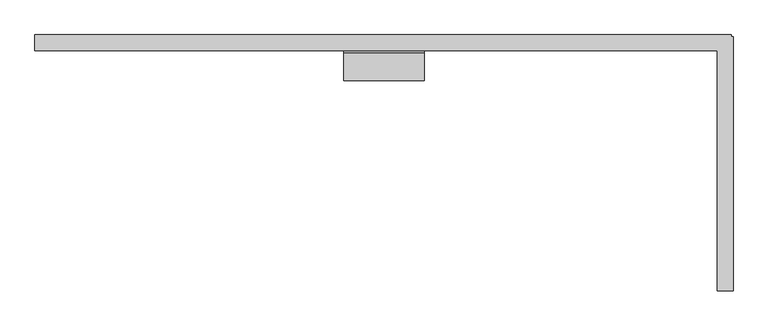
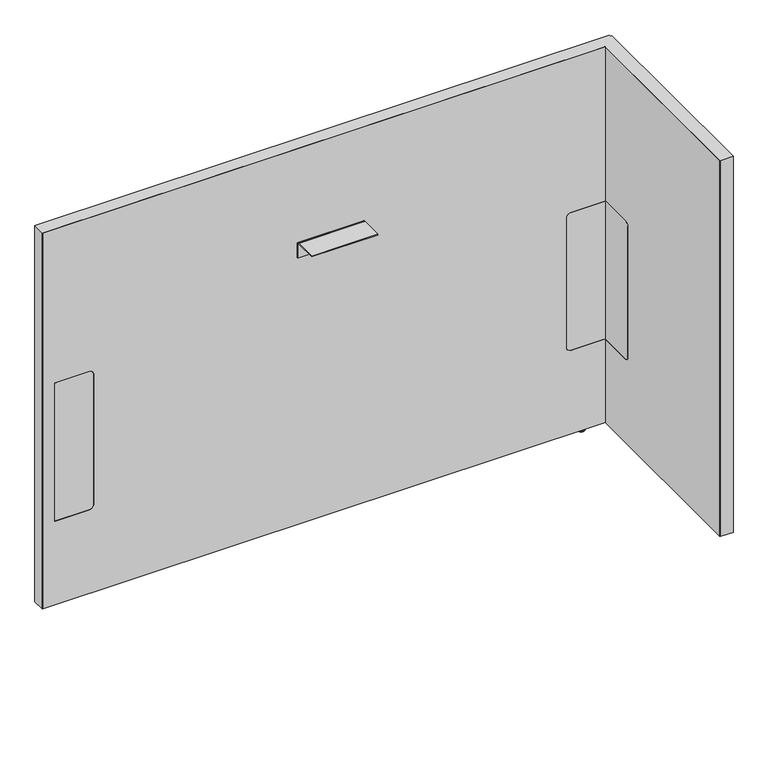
"""IFC4 building model written with IfcOpenShell, lengths in millimetres: furniture geometry, Steelcase - Answer Solution - Boundary Screen - L Return - Single Sided : 36H x 51W."""

from ifc_helpers import new_model, si_unit, point, frame, frame_2d, origin, place, context, project, spatial, polyline, circle_curve, ellipse_curve, trimmed, segment, composite_curve, outline, extrude, faceted_brep, source, transform, mapped, element, save
from ifc_brep_helpers import plane_surface, cylinder_surface, revolved_surface, advanced_brep


def furniture_ebb056c9(model_context):
    return source(origin(), model_context, "Body", "SolidModel", [
        extrude(outline(composite_curve([segment(polyline([(-109.3501471, 549.6162029), (-29.0550397, 549.6162029), (-29.0550397, 213.7762137), (-109.3501471, 213.7762137)]), True, "CONTINUOUS"), segment(trimmed(circle_curve(frame_2d((-109.3501471, 223.9362137)), 10.16), [point((-109.3501471, 213.7762137))], [point((-119.5101471, 223.9362137))], False, "CARTESIAN"), True, "CONTINUOUS"), segment(polyline([(-119.5101471, 223.9362137), (-119.5101471, 539.4562029)]), True, "CONTINUOUS"), segment(trimmed(circle_curve(frame_2d((-109.3501471, 539.4562029)), 10.16), [point((-119.5101471, 539.4562029))], [point((-109.3501471, 549.6162029))], False, "CARTESIAN"), True, "CONTINUOUS")], self_intersect=False)), frame((1525.2191891, 0.0, 0.0), z_axis=(1.0, 0.0, 0.0), x_axis=(0.0, 1.0, 0.0)), (0.0, 0.0, 1.0), 0.6401544),
        advanced_brep(
        [(1540.0672074, -448.0136072, 0.0), (1547.0216144, -448.0136072, 0.0), (1533.1128003, -448.0136072, 0.0), (1548.4762685, -448.0136072, 1.2700001), (1531.6581463, -448.0136072, 1.2700001), (1548.4762685, -448.0136072, 2.9673238), (1531.6581463, -448.0136072, 2.9673238), (1549.4427877, -448.0136072, 2.9673238), (1530.691627, -448.0136072, 2.9673238), (1549.4427877, -448.0136072, 9.9059849), (1530.691627, -448.0136072, 9.9059849), (1540.0672074, -448.0136072, 9.9059849)],
        [
            (0, 1),
            (1, 2, circle_curve(frame((1540.0672074, -448.0136072, 0.0), z_axis=(0.0, 0.0, -1.0), x_axis=(1.0, 0.0, 0.0)), 6.9544071)),
            (2, 0),
            (2, 1, circle_curve(frame((1540.0672074, -448.0136072, 0.0), z_axis=(0.0, 0.0, -1.0), x_axis=(1.0, 0.0, 0.0)), 6.9544071)),
            (1, 3, circle_curve(frame((1547.1945484, -448.0136072, 1.2700001), z_axis=(0.0, -1.0, 0.0), x_axis=(0.0, 0.0, 1.0)), 1.2817201)),
            (3, 4, circle_curve(frame((1540.0672074, -448.0136072, 1.2700001), z_axis=(0.0, 0.0, -1.0), x_axis=(1.0, 0.0, 0.0)), 8.4090611)),
            (4, 2, circle_curve(frame((1532.9398663, -448.0136072, 1.2700001), z_axis=(0.0, -1.0, 0.0), x_axis=(0.0, 0.0, 1.0)), 1.2817201)),
            (4, 3, circle_curve(frame((1540.0672074, -448.0136072, 1.2700001), z_axis=(0.0, 0.0, -1.0), x_axis=(1.0, 0.0, 0.0)), 8.4090611)),
            (3, 5),
            (5, 6, circle_curve(frame((1540.0672074, -448.0136072, 2.9673238), z_axis=(0.0, 0.0, -1.0), x_axis=(1.0, 0.0, 0.0)), 8.4090611)),
            (6, 4),
            (6, 5, circle_curve(frame((1540.0672074, -448.0136072, 2.9673238), z_axis=(0.0, 0.0, -1.0), x_axis=(1.0, 0.0, 0.0)), 8.4090611)),
            (5, 7),
            (7, 8, circle_curve(frame((1540.0672074, -448.0136072, 2.9673238), z_axis=(0.0, 0.0, -1.0), x_axis=(1.0, 0.0, 0.0)), 9.3755804)),
            (8, 6),
            (8, 7, circle_curve(frame((1540.0672074, -448.0136072, 2.9673238), z_axis=(0.0, 0.0, -1.0), x_axis=(1.0, 0.0, 0.0)), 9.3755804)),
            (7, 9),
            (9, 10, circle_curve(frame((1540.0672074, -448.0136072, 9.9059849), z_axis=(0.0, 0.0, -1.0), x_axis=(1.0, 0.0, 0.0)), 9.3755804)),
            (10, 8),
            (10, 9, circle_curve(frame((1540.0672074, -448.0136072, 9.9059849), z_axis=(0.0, 0.0, -1.0), x_axis=(1.0, 0.0, 0.0)), 9.3755804)),
            (9, 11),
            (11, 10),
        ],
        [
            plane_surface(frame((1540.0672074, -448.0136072, 0.0), z_axis=(0.0, 0.0, -1.0), x_axis=(1.0, 0.0, 0.0))),
            revolved_surface(trimmed(ellipse_curve(frame((1547.1945484, -448.0136072, 1.2700001), z_axis=(0.0, 1.0, 0.0), x_axis=(0.0, 0.0, 1.0)), 1.2817201, 1.2817201), [point((1548.4762685, -448.0136072, 1.2700001))], [point((1547.0216144, -448.0136072, 0.0))], True, "CARTESIAN"), (1540.0672074, -448.0136072, 9.9059849), (0.0, 0.0, -1.0)),
            cylinder_surface(frame((1540.0672074, -448.0136072, 9.9059849), z_axis=(0.0, 0.0, -1.0), x_axis=(1.0, 0.0, 0.0)), 8.4090611),
            plane_surface(frame((1540.0672074, -448.0136072, 2.9673238), z_axis=(0.0, 0.0, -1.0), x_axis=(1.0, 0.0, 0.0))),
            cylinder_surface(frame((1540.0672074, -448.0136072, 9.9059849), z_axis=(0.0, 0.0, -1.0), x_axis=(1.0, 0.0, 0.0)), 9.3755804),
            plane_surface(frame((1540.0672074, -448.0136072, 9.9059849), z_axis=(0.0, 0.0, 1.0), x_axis=(1.0, 0.0, 0.0))),
        ],
        [
            (0, [[1, 2, 3]]),
            (0, [[-3, 4, -1]]),
            (1, [[-2, 5, 6, 7]]),
            (1, [[-4, -7, 8, -5]]),
            (2, [[-6, 9, 10, 11]]),
            (2, [[-8, -11, 12, -9]]),
            (3, [[-10, 13, 14, 15]]),
            (3, [[-12, -15, 16, -13]]),
            (4, [[-14, 17, 18, 19]]),
            (4, [[-16, -19, 20, -17]]),
            (5, [[-18, 21, 22]]),
            (5, [[-20, -22, -21]]),
        ],
    ),
        faceted_brep([(1551.6531179, 0.0, 925.322), (1551.6531179, 0.0, 9.9059849), (1550.6621491, 0.0, 9.9059849), (1550.6621491, 0.0, 924.342118), (230.8097779, 0.0, 924.342118), (230.8097779, 0.0, 9.9059849), (229.8191891, 0.0, 9.9059849), (229.8191891, 0.0, 925.322), (229.8191891, -29.6898332, 925.322), (229.8191891, -29.6898332, 9.9059849), (230.8097779, -29.6898332, 9.9059849), (230.8097779, -29.6898332, 924.342118), (1525.2191891, -29.6898332, 924.342118), (1525.2191891, -29.6898332, 925.322), (1550.6621491, -29.6898332, 924.342118), (1550.6621491, -29.6898332, 9.9059849), (1551.6531179, -29.6898332, 9.9059849), (1551.6531179, -29.6898332, 924.342118), (1551.6531179, -3.2625916, 925.322), (1551.6531179, -3.2625916, 9.9059849), (1551.6531179, -4.252647, 9.9059849), (1551.6531179, -4.252647, 924.342118), (1554.9152256, -3.2625916, 9.9059849), (1554.9152256, -4.252647, 9.9059849), (1550.6621491, -4.252647, 9.9059849), (1525.2191891, -4.252647, 9.9059849), (1525.2191891, -3.2625916, 9.9059849), (1550.6621491, -3.2625916, 9.9059849), (1525.2191891, -486.8898332, 925.322), (1554.9152256, -486.8898332, 925.322), (1554.9152256, -3.2625916, 925.322), (1550.6621491, -3.2625916, 924.342118), (1550.6621491, -4.252647, 924.342118), (1525.2191891, -3.2625916, 924.342118), (1525.2191891, -4.252647, 924.342118), (1554.9152256, -4.252647, 924.342118), (1554.9152256, -485.899196, 924.342118), (1525.2191891, -485.899196, 924.342118), (1525.2191891, -485.899196, 9.9059849), (1525.2191891, -486.8898332, 9.9059849), (1554.9152256, -486.8898332, 9.9059849), (1554.9152256, -485.899196, 9.9059849)], [[[0, 1, 2, 3, 4, 5, 6, 7]], [[8, 9, 10, 11, 12, 13]], [[14, 15, 16, 17]], [[1, 0, 18, 19]], [[17, 16, 20, 21]], [[2, 1, 19, 22, 23, 20, 16, 15, 24, 25, 26, 27]], [[7, 6, 9, 8]], [[0, 7, 8, 13, 28, 29, 30, 18]], [[3, 2, 27, 31]], [[15, 14, 32, 24]], [[4, 3, 31, 33, 34, 32, 14, 17, 21, 35, 36, 37, 12, 11]], [[5, 4, 11, 10]], [[6, 5, 10, 9]], [[26, 25, 34, 33]], [[37, 38, 39, 28, 13, 12]], [[29, 40, 41, 36, 35, 23, 22, 30]], [[27, 26, 33, 31]], [[30, 22, 19, 18]], [[34, 25, 24, 32]], [[23, 35, 21, 20]], [[38, 37, 36, 41]], [[39, 38, 41, 40]], [[28, 39, 40, 29]]]),
        extrude(outline(composite_curve([segment(polyline([(-86.8398151, 696.4680019), (-86.8398151, 698.5), (-34.9450855, 698.5)]), True, "CONTINUOUS"), segment(trimmed(circle_curve(frame_2d((-34.9450855, 693.2447477)), 5.2552523), [point((-34.9450855, 698.5))], [point((-29.6898332, 693.2447477))], False, "CARTESIAN"), True, "CONTINUOUS"), segment(polyline([(-29.6898332, 693.2447477), (-29.6898332, 660.4), (-31.7218162, 660.4), (-31.7218162, 693.0058743)]), True, "CONTINUOUS"), segment(trimmed(circle_curve(frame_2d((-35.1839438, 693.0058743)), 3.4621276), [point((-31.7218162, 693.0058743))], [point((-35.1839438, 696.4680019))], True, "CARTESIAN"), True, "CONTINUOUS"), segment(polyline([(-35.1839438, 696.4680019), (-86.8398151, 696.4680019)]), True, "CONTINUOUS")], self_intersect=False)), frame((816.1685899, 0.0, 0.0), z_axis=(1.0, 0.0, 0.0), x_axis=(0.0, 1.0, 0.0)), (0.0, 0.0, 1.0), 152.4000969),
        advanced_brep(
        [(1477.7246853, -23.7588726, 9.9059849), (1477.7246853, -5.9309607, 9.9059849), (1477.7246853, -14.8449166, 9.9059849), (1477.7246853, -23.7588726, 2.9673238), (1477.7246853, -5.9309607, 2.9673238), (1477.7246853, -22.7915354, 2.9673238), (1477.7246853, -6.8982978, 2.9673238), (1477.7246853, -22.7915354, 1.6569081), (1477.7246853, -6.8982978, 1.6569081), (1477.7246853, -21.1346274, 0.0), (1477.7246853, -8.5552059, 0.0), (1477.7246853, -14.8449166, 0.0)],
        [
            (0, 1, circle_curve(frame((1477.7246853, -14.8449166, 9.9059849), z_axis=(0.0, 0.0, 1.0), x_axis=(0.0, 1.0, 0.0)), 8.913956)),
            (1, 2),
            (2, 0),
            (1, 0, circle_curve(frame((1477.7246853, -14.8449166, 9.9059849), z_axis=(0.0, 0.0, 1.0), x_axis=(0.0, 1.0, 0.0)), 8.913956)),
            (3, 4, circle_curve(frame((1477.7246853, -14.8449166, 2.9673238), z_axis=(0.0, 0.0, 1.0), x_axis=(0.0, 1.0, 0.0)), 8.913956)),
            (4, 1),
            (0, 3),
            (4, 3, circle_curve(frame((1477.7246853, -14.8449166, 2.9673238), z_axis=(0.0, 0.0, 1.0), x_axis=(0.0, 1.0, 0.0)), 8.913956)),
            (5, 6, circle_curve(frame((1477.7246853, -14.8449166, 2.9673238), z_axis=(0.0, 0.0, 1.0), x_axis=(0.0, 1.0, 0.0)), 7.9466188)),
            (6, 4),
            (3, 5),
            (6, 5, circle_curve(frame((1477.7246853, -14.8449166, 2.9673238), z_axis=(0.0, 0.0, 1.0), x_axis=(0.0, 1.0, 0.0)), 7.9466188)),
            (7, 8, circle_curve(frame((1477.7246853, -14.8449166, 1.6569081), z_axis=(0.0, 0.0, 1.0), x_axis=(0.0, 1.0, 0.0)), 7.9466188)),
            (8, 6),
            (5, 7),
            (8, 7, circle_curve(frame((1477.7246853, -14.8449166, 1.6569081), z_axis=(0.0, 0.0, 1.0), x_axis=(0.0, 1.0, 0.0)), 7.9466188)),
            (9, 10, circle_curve(frame((1477.7246853, -14.8449166, 0.0), z_axis=(0.0, 0.0, 1.0), x_axis=(0.0, 1.0, 0.0)), 6.2897107)),
            (10, 8, circle_curve(frame((1477.7246853, -8.5552059, 1.6569081), z_axis=(1.0, 0.0, 0.0), x_axis=(0.0, 1.0, 0.0)), 1.6569081)),
            (7, 9, circle_curve(frame((1477.7246853, -21.1346274, 1.6569081), z_axis=(1.0, 0.0, 0.0), x_axis=(0.0, -1.0, 0.0)), 1.6569081)),
            (10, 9, circle_curve(frame((1477.7246853, -14.8449166, 0.0), z_axis=(0.0, 0.0, 1.0), x_axis=(0.0, 1.0, 0.0)), 6.2897107)),
            (11, 10),
            (9, 11),
        ],
        [
            plane_surface(frame((1477.7246853, -14.8449166, 9.9059849), z_axis=(0.0, 0.0, 1.0), x_axis=(0.0, 1.0, 0.0))),
            cylinder_surface(frame((1477.7246853, -14.8449166, 9.9059849), z_axis=(0.0, 0.0, -1.0), x_axis=(0.0, 1.0, 0.0)), 8.913956),
            plane_surface(frame((1477.7246853, -14.8449166, 2.9673238), z_axis=(0.0, 0.0, -1.0), x_axis=(0.0, 1.0, 0.0))),
            cylinder_surface(frame((1477.7246853, -14.8449166, 9.9059849), z_axis=(0.0, 0.0, -1.0), x_axis=(0.0, 1.0, 0.0)), 7.9466188),
            revolved_surface(trimmed(ellipse_curve(frame((1477.7246853, -8.5552059, 1.6569081), z_axis=(-1.0, 0.0, 0.0), x_axis=(0.0, 1.0, 0.0)), 1.6569081, 1.6569081), [point((1477.7246853, -6.8982978, 1.6569081))], [point((1477.7246853, -8.5552059, 0.0))], True, "CARTESIAN"), (1477.7246853, -14.8449166, 9.9059849), (0.0, 0.0, -1.0)),
            plane_surface(frame((1477.7246853, -14.8449166, 0.0), z_axis=(0.0, 0.0, -1.0), x_axis=(0.0, 1.0, 0.0))),
        ],
        [
            (0, [[1, 2, 3]]),
            (0, [[4, -3, -2]]),
            (1, [[5, 6, -1, 7]]),
            (1, [[8, -7, -4, -6]]),
            (2, [[9, 10, -5, 11]]),
            (2, [[12, -11, -8, -10]]),
            (3, [[13, 14, -9, 15]]),
            (3, [[16, -15, -12, -14]]),
            (4, [[17, 18, -13, 19]]),
            (4, [[20, -19, -16, -18]]),
            (5, [[21, -17, 22]]),
            (5, [[-22, -20, -21]]),
        ],
    ),
        advanced_brep(
        [(230.8097779, 0.0, 924.342118), (1550.6621491, 0.0, 924.342118), (1550.6621491, 0.0, 9.9059849), (230.8097779, 0.0, 9.9059849), (347.9483813, -29.0550397, 539.4562029), (337.7883813, -29.0550397, 549.6162029), (258.1344836, -29.0550397, 549.6162029), (258.1344836, -29.0550397, 213.7762137), (337.7883813, -29.0550397, 213.7762137), (347.9483813, -29.0550397, 223.9362137), (1525.8593435, -29.0550397, 213.7762137), (1525.8593435, -29.0550397, 549.6162029), (1445.3109268, -29.0550397, 549.6162029), (1435.1509268, -29.0550397, 539.4562029), (1435.1509268, -29.0550397, 223.9362137), (1445.3109268, -29.0550397, 213.7762137), (230.8097779, -29.6898332, 924.342118), (230.8097779, -29.6898332, 9.9059849), (1525.2191891, -29.6898332, 9.9059849), (1525.2191891, -29.6898332, 213.7762137), (1445.3109268, -29.6898332, 213.7762137), (1435.1509268, -29.6898332, 223.9362137), (1435.1509268, -29.6898332, 539.4562029), (1445.3109268, -29.6898332, 549.6162029), (1525.2191891, -29.6898332, 549.6162029), (1525.2191891, -29.6898332, 924.342118), (337.7883813, -29.6898332, 549.6162029), (347.9483813, -29.6898332, 539.4562029), (347.9483813, -29.6898332, 223.9362137), (337.7883813, -29.6898332, 213.7762137), (258.1344836, -29.6898332, 213.7762137), (258.1344836, -29.6898332, 549.6162029), (1550.6621491, -4.252647, 9.9059849), (1554.9152256, -4.252647, 9.9059849), (1554.9152256, -485.899196, 9.9059849), (1525.2191891, -485.899196, 9.9059849), (1550.6621491, -4.252647, 924.342118), (1525.2191891, -485.899196, 924.342118), (1554.9152256, -485.899196, 924.342118), (1554.9152256, -4.252647, 924.342118), (1525.8593435, -109.3501471, 549.6162029), (1525.2191891, -109.3501471, 549.6162029), (1525.8593435, -109.3501471, 213.7762137), (1525.8593435, -119.5101471, 223.9362137), (1525.8593435, -119.5101471, 539.4562029), (1525.2191891, -109.3501471, 213.7762137), (1525.2191891, -119.5101471, 539.4562029), (1525.2191891, -119.5101471, 223.9362137)],
        [
            (0, 1),
            (1, 2),
            (2, 3),
            (3, 0),
            (4, 5, circle_curve(frame((337.7883813, -29.0550397, 539.4562029), z_axis=(0.0, -1.0, 0.0), x_axis=(0.0, 0.0, 1.0)), 10.16)),
            (5, 6),
            (6, 7),
            (7, 8),
            (8, 9, circle_curve(frame((337.7883813, -29.0550397, 223.9362137), z_axis=(0.0, -1.0, 0.0), x_axis=(0.0, 0.0, 1.0)), 10.16)),
            (9, 4),
            (10, 11),
            (11, 12),
            (12, 13, circle_curve(frame((1445.3109268, -29.0550397, 539.4562029), z_axis=(0.0, -1.0, 0.0), x_axis=(0.0, 0.0, 1.0)), 10.16)),
            (13, 14),
            (14, 15, circle_curve(frame((1445.3109268, -29.0550397, 223.9362137), z_axis=(0.0, -1.0, 0.0), x_axis=(0.0, 0.0, 1.0)), 10.16)),
            (15, 10),
            (16, 17),
            (17, 18),
            (18, 19),
            (19, 20),
            (20, 21, circle_curve(frame((1445.3109268, -29.6898332, 223.9362137), z_axis=(0.0, 1.0, 0.0), x_axis=(0.0, 0.0, 1.0)), 10.16)),
            (21, 22),
            (22, 23, circle_curve(frame((1445.3109268, -29.6898332, 539.4562029), z_axis=(0.0, 1.0, 0.0), x_axis=(0.0, 0.0, 1.0)), 10.16)),
            (23, 24),
            (24, 25),
            (25, 16),
            (26, 27, circle_curve(frame((337.7883813, -29.6898332, 539.4562029), z_axis=(0.0, 1.0, 0.0), x_axis=(0.0, 0.0, 1.0)), 10.16)),
            (27, 28),
            (28, 29, circle_curve(frame((337.7883813, -29.6898332, 223.9362137), z_axis=(0.0, 1.0, 0.0), x_axis=(0.0, 0.0, 1.0)), 10.16)),
            (29, 30),
            (30, 31),
            (31, 26),
            (16, 0),
            (3, 17),
            (2, 32),
            (32, 33),
            (33, 34),
            (34, 35),
            (35, 18),
            (1, 36),
            (36, 32),
            (25, 37),
            (37, 38),
            (38, 39),
            (39, 36),
            (26, 5),
            (4, 27),
            (9, 28),
            (8, 29),
            (7, 30),
            (6, 31),
            (11, 40),
            (40, 41),
            (41, 24),
            (23, 12),
            (42, 43, circle_curve(frame((1525.8593435, -109.3501471, 223.9362137), z_axis=(-1.0, 0.0, 0.0), x_axis=(0.0, 1.0, 0.0)), 10.16)),
            (43, 44),
            (44, 40, circle_curve(frame((1525.8593435, -109.3501471, 539.4562029), z_axis=(-1.0, 0.0, 0.0), x_axis=(0.0, 1.0, 0.0)), 10.16)),
            (10, 42),
            (15, 20),
            (19, 45),
            (45, 42),
            (14, 21),
            (13, 22),
            (35, 37),
            (41, 46, circle_curve(frame((1525.2191891, -109.3501471, 539.4562029), z_axis=(1.0, 0.0, 0.0), x_axis=(0.0, 1.0, 0.0)), 10.16)),
            (46, 47),
            (47, 45, circle_curve(frame((1525.2191891, -109.3501471, 223.9362137), z_axis=(1.0, 0.0, 0.0), x_axis=(0.0, 1.0, 0.0)), 10.16)),
            (38, 34),
            (33, 39),
            (44, 46),
            (43, 47),
        ],
        [
            plane_surface(frame((347.9483813, 0.0, 549.6162029), z_axis=(0.0, 1.0, 0.0), x_axis=(0.0, 0.0, -1.0))),
            plane_surface(frame((347.9483813, -29.0550397, 549.6162029), z_axis=(0.0, -1.0, 0.0), x_axis=(0.0, 0.0, 1.0))),
            plane_surface(frame((1550.6621491, -29.6898332, 924.342118), z_axis=(0.0, -1.0, 0.0), x_axis=(-1.0, 0.0, 0.0))),
            plane_surface(frame((230.8097779, 0.0, 9.9059849), z_axis=(-1.0, 0.0, 0.0), x_axis=(0.0, -1.0, 0.0))),
            plane_surface(frame((1550.6621491, 0.0, 9.9059849), z_axis=(0.0, 0.0, -1.0), x_axis=(0.0, -1.0, 0.0))),
            plane_surface(frame((1550.6621491, 0.0, 924.342118), z_axis=(1.0, 0.0, 0.0), x_axis=(0.0, -1.0, 0.0))),
            plane_surface(frame((230.8097779, 0.0, 924.342118), z_axis=(0.0, 0.0, 1.0), x_axis=(0.0, -1.0, 0.0))),
            revolved_surface(polyline([(337.7883813, -29.6898332, 549.6162029), (337.7883813, -29.0550397, 549.6162029)]), (337.7883813, -29.6898332, 539.4562029), (0.0, -1.0, 0.0)),
            plane_surface(frame((347.9483813, 0.0, 223.9362137), z_axis=(-1.0, 0.0, 0.0), x_axis=(0.0, -1.0, 0.0))),
            revolved_surface(polyline([(337.7883813, -29.6898332, 234.0962137), (337.7883813, -29.0550397, 234.0962137)]), (337.7883813, -29.6898332, 223.9362137), (0.0, -1.0, 0.0)),
            plane_surface(frame((258.1344836, 0.0, 213.7762137), z_axis=(0.0, 0.0, 1.0), x_axis=(0.0, -1.0, 0.0))),
            plane_surface(frame((258.1344836, 0.0, 549.6162029), z_axis=(1.0, 0.0, 0.0), x_axis=(0.0, -1.0, 0.0))),
            plane_surface(frame((337.7883813, 0.0, 549.6162029), z_axis=(0.0, 0.0, -1.0), x_axis=(0.0, -1.0, 0.0))),
            plane_surface(frame((1525.8593435, 0.0, 549.6162029), z_axis=(0.0, 0.0, -1.0), x_axis=(0.0, -1.0, 0.0))),
            plane_surface(frame((1525.8593435, 0.0, 213.7762137), z_axis=(-1.0, 0.0, 0.0), x_axis=(0.0, -1.0, 0.0))),
            plane_surface(frame((1445.3109268, 0.0, 213.7762137), z_axis=(0.0, 0.0, 1.0), x_axis=(0.0, -1.0, 0.0))),
            revolved_surface(polyline([(1445.3109268, -29.6898332, 234.0962137), (1445.3109268, -29.0550397, 234.0962137)]), (1445.3109268, -29.6898332, 223.9362137), (0.0, -1.0, 0.0)),
            plane_surface(frame((1435.1509268, 0.0, 539.4562029), z_axis=(1.0, 0.0, 0.0), x_axis=(0.0, -1.0, 0.0))),
            revolved_surface(polyline([(1445.3109268, -29.6898332, 549.6162029), (1445.3109268, -29.0550397, 549.6162029)]), (1445.3109268, -29.6898332, 539.4562029), (0.0, -1.0, 0.0)),
            plane_surface(frame((1525.2191891, -485.899196, 924.342118), z_axis=(-1.0, 0.0, 0.0), x_axis=(0.0, 0.0, 1.0))),
            plane_surface(frame((1554.9152256, -485.899196, 924.342118), z_axis=(1.0, 0.0, 0.0), x_axis=(0.0, 0.0, -1.0))),
            plane_surface(frame((1554.9152256, -4.252647, 9.9059849), z_axis=(0.0, 1.0, 0.0), x_axis=(-1.0, 0.0, 0.0))),
            plane_surface(frame((1554.9152256, -485.899196, 924.342118), z_axis=(0.0, -1.0, 0.0), x_axis=(-1.0, 0.0, 0.0))),
            revolved_surface(polyline([(1525.2191891, -99.1901471, 539.4562029), (1525.8593435, -99.1901471, 539.4562029)]), (-340.6902705, -109.3501471, 539.4562029), (-1.0, 0.0, 0.0)),
            plane_surface(frame((1554.9152256, -119.5101471, 223.9362137), z_axis=(0.0, 1.0, 0.0), x_axis=(-1.0, 0.0, 0.0))),
            revolved_surface(polyline([(1525.2191891, -99.1901471, 223.9362137), (1525.8593435, -99.1901471, 223.9362137)]), (-340.6902705, -109.3501471, 223.9362137), (-1.0, 0.0, 0.0)),
        ],
        [
            (0, [[1, 2, 3, 4]]),
            (1, [[5, 6, 7, 8, 9, 10]]),
            (1, [[11, 12, 13, 14, 15, 16]]),
            (2, [[17, 18, 19, 20, 21, 22, 23, 24, 25, 26], [27, 28, 29, 30, 31, 32]]),
            (3, [[-17, 33, -4, 34]]),
            (4, [[-3, 35, 36, 37, 38, 39, -18, -34]]),
            (5, [[-2, 40, 41, -35]]),
            (6, [[-1, -33, -26, 42, 43, 44, 45, -40]]),
            (7, [[-27, 46, -5, 47]]),
            (8, [[-28, -47, -10, 48]]),
            (9, [[-29, -48, -9, 49]]),
            (10, [[-30, -49, -8, 50]]),
            (11, [[-31, -50, -7, 51]]),
            (12, [[-32, -51, -6, -46]]),
            (13, [[52, 53, 54, -24, 55, -12]]),
            (14, [[56, 57, 58, -52, -11, 59]]),
            (15, [[-59, -16, 60, -20, 61, 62]]),
            (16, [[-21, -60, -15, 63]]),
            (17, [[-22, -63, -14, 64]]),
            (18, [[-23, -64, -13, -55]]),
            (19, [[65, -42, -25, -54, 66, 67, 68, -61, -19, -39]]),
            (20, [[69, -37, 70, -44]]),
            (21, [[-70, -36, -41, -45]]),
            (22, [[-65, -38, -69, -43]]),
            (23, [[-66, -53, -58, 71]]),
            (24, [[-67, -71, -57, 72]]),
            (25, [[-68, -72, -56, -62]]),
        ],
    ),
        extrude(outline(composite_curve([segment(polyline([(549.6162029, 337.7883813), (549.6162029, 258.1344836), (213.7762137, 258.1344836), (213.7762137, 337.7883813)]), True, "CONTINUOUS"), segment(trimmed(circle_curve(frame_2d((223.9362137, 337.7883813)), 10.16), [point((213.7762137, 337.7883813))], [point((223.9362137, 347.9483813))], False, "CARTESIAN"), True, "CONTINUOUS"), segment(polyline([(223.9362137, 347.9483813), (539.4562029, 347.9483813)]), True, "CONTINUOUS"), segment(trimmed(circle_curve(frame_2d((539.4562029, 337.7883813)), 10.16), [point((539.4562029, 347.9483813))], [point((549.6162029, 337.7883813))], False, "CARTESIAN"), True, "CONTINUOUS")], self_intersect=False)), frame((0.0, -29.6898332, 0.0), z_axis=(0.0, 1.0, 0.0), x_axis=(0.0, 0.0, 1.0)), (0.0, 0.0, 1.0), 0.6347935),
        extrude(outline(composite_curve([segment(trimmed(circle_curve(frame_2d((539.4562029, 1445.3109268)), 10.16), [point((549.6162029, 1445.3109268))], [point((539.4562029, 1435.1509268))], False, "CARTESIAN"), True, "CONTINUOUS"), segment(polyline([(539.4562029, 1435.1509268), (223.9362137, 1435.1509268)]), True, "CONTINUOUS"), segment(trimmed(circle_curve(frame_2d((223.9362137, 1445.3109268)), 10.16), [point((223.9362137, 1435.1509268))], [point((213.7762137, 1445.3109268))], False, "CARTESIAN"), True, "CONTINUOUS"), segment(polyline([(213.7762137, 1445.3109268), (213.7762137, 1525.2191891), (549.6162029, 1525.2191891), (549.6162029, 1445.3109268)]), True, "CONTINUOUS")], self_intersect=False)), frame((0.0, -29.6898332, 0.0), z_axis=(0.0, 1.0, 0.0), x_axis=(0.0, 0.0, 1.0)), (0.0, 0.0, 1.0), 0.6347935),
    ])


if __name__ == "__main__":
    model = new_model("IFC4")
    model_context = context("Model", 3, world=origin())
    ifc_project = project(units=[si_unit("LENGTHUNIT", "METRE", prefix="MILLI")], contexts=[model_context])
    site = spatial("IfcSite", under=ifc_project)
    building = spatial("IfcBuilding", under=site)
    placement = place(None, origin())
    furniture_shape = furniture_ebb056c9(model_context)
    element("IfcFurniture", 1, ObjectType="Steelcase - Answer Solution - Boundary Screen - L Return - Single Sided : 36H x 51W", at=placement, inside=building, context=model_context, shape_type="MappedRepresentation", body=[
        mapped(furniture_shape, transform((0.0, 0.0, 0.0), x_axis=(1.0, 0.0, 0.0), y_axis=(0.0, 1.0, 0.0), z_axis=(0.0, 0.0, 1.0))),
    ])
    save(model, "model.ifc")
